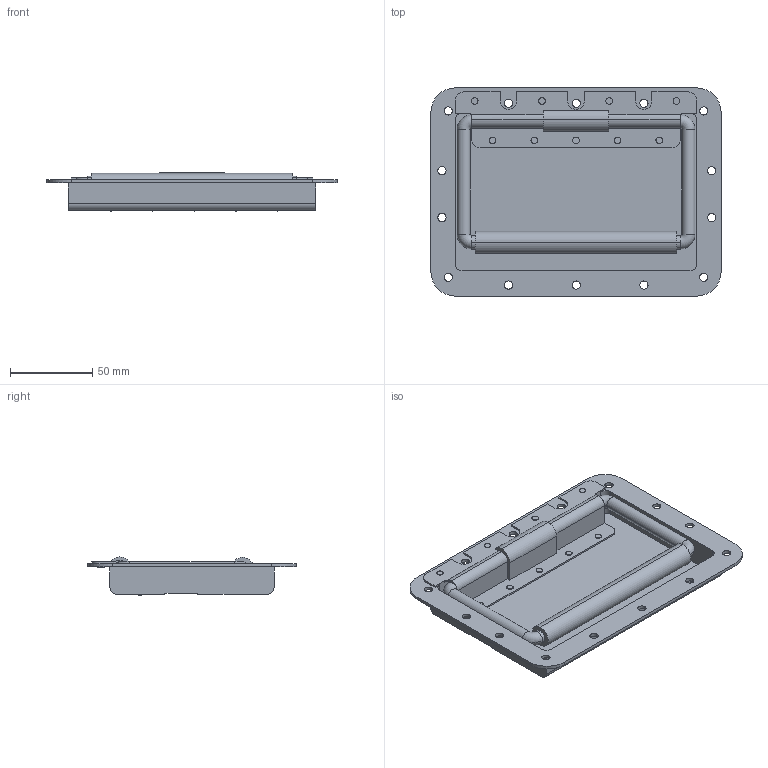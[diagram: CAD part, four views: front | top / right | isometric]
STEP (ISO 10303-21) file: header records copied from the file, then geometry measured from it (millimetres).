
FILE_DESCRIPTION(('STEP AP203'),'1');
FILE_NAME(' ',' ',('TraceParts'),('TraceParts S.A.'),'XStep 1.0',' ',' ');
FILE_SCHEMA(('CONFIG_CONTROL_DESIGN'));
Length unit declared in the file: millimetre
Products named in the file (3): 1; 2; 3
Bounding box: 177 x 127 x 23.24 mm (x, y, z)
Volume: 98991.4 mm3; surface area: 87330.6 mm2
Topology: 3 solids, 3 shells, 177 faces, 456 edges, 300 vertices
Faces by surface type: cylinder 103, plane 66, torus 8
Entity records: 5704 total; most frequent: DIRECTION 1038, CARTESIAN_POINT 968, ORIENTED_EDGE 912, EDGE_CURVE 456, AXIS2_PLACEMENT_3D 406, VERTEX_POINT 300, EDGE_LOOP 226, LINE 226
